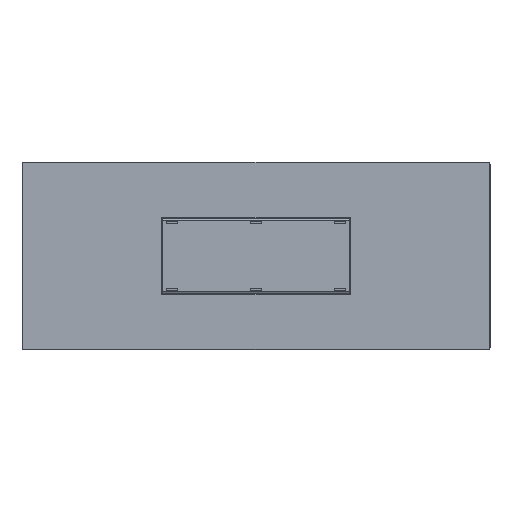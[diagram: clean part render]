
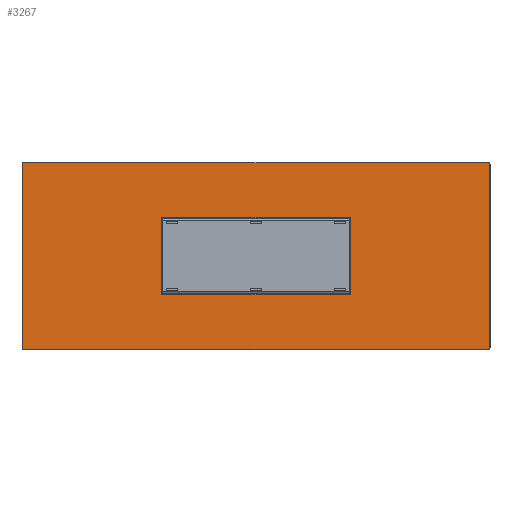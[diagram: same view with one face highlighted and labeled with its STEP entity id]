
A CAD part, front view. The second image highlights one B-rep face of the part: STEP entity #3267.
In plain terms, the highlighted planar face has unit normal (0, -1, 0).
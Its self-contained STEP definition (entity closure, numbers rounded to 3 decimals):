
#2862=CARTESIAN_POINT('',(-1249.0,723.,690.));
#2863=VERTEX_POINT('',#2862);
#2880=CARTESIAN_POINT('',(-1249.,723.,-290.));
#2881=VERTEX_POINT('',#2880);
#2888=CARTESIAN_POINT('',(-1249.0,723.,-290.));
#2889=DIRECTION('',(0.0,0.0,1.0));
#2890=VECTOR('',#2889,980.);
#2891=LINE('',#2888,#2890);
#2892=EDGE_CURVE('',#2881,#2863,#2891,.T.);
#2904=CARTESIAN_POINT('',(-1240.0,723.,-299.));
#2905=VERTEX_POINT('',#2904);
#2912=CARTESIAN_POINT('',(-1240.0,723.,-290.));
#2913=DIRECTION('',(0.,1.,0.));
#2914=DIRECTION('',(-0.707,0.,-0.707));
#2915=AXIS2_PLACEMENT_3D('',#2912,#2913,#2914);
#2916=CIRCLE('',#2915,9.);
#2917=EDGE_CURVE('',#2905,#2881,#2916,.T.);
#2937=CARTESIAN_POINT('',(1240.0,723.,-299.0));
#2938=VERTEX_POINT('',#2937);
#2945=CARTESIAN_POINT('',(1240.0,723.,-299.));
#2946=DIRECTION('',(-1.0,0.0,0.0));
#2947=VECTOR('',#2946,2480.0);
#2948=LINE('',#2945,#2947);
#2949=EDGE_CURVE('',#2938,#2905,#2948,.T.);
#2968=CARTESIAN_POINT('',(1249.0,723.,-290.0));
#2969=VERTEX_POINT('',#2968);
#2976=CARTESIAN_POINT('',(1240.0,723.,-290.0));
#2977=DIRECTION('',(0.,1.,0.));
#2978=DIRECTION('',(0.707,0.,-0.707));
#2979=AXIS2_PLACEMENT_3D('',#2976,#2977,#2978);
#2980=CIRCLE('',#2979,9.);
#2981=EDGE_CURVE('',#2969,#2938,#2980,.T.);
#3001=CARTESIAN_POINT('',(1249.0,723.,690.0));
#3002=VERTEX_POINT('',#3001);
#3009=CARTESIAN_POINT('',(1249.0,723.,690.));
#3010=DIRECTION('',(0.0,0.0,-1.0));
#3011=VECTOR('',#3010,980.);
#3012=LINE('',#3009,#3011);
#3013=EDGE_CURVE('',#3002,#2969,#3012,.T.);
#3032=CARTESIAN_POINT('',(1240.0,723.,699.));
#3033=VERTEX_POINT('',#3032);
#3040=CARTESIAN_POINT('',(1240.0,723.,690.0));
#3041=DIRECTION('',(0.,1.,0.));
#3042=DIRECTION('',(0.707,0.,0.707));
#3043=AXIS2_PLACEMENT_3D('',#3040,#3041,#3042);
#3044=CIRCLE('',#3043,9.);
#3045=EDGE_CURVE('',#3033,#3002,#3044,.T.);
#3065=CARTESIAN_POINT('',(-1240.0,723.,699.0));
#3066=VERTEX_POINT('',#3065);
#3073=CARTESIAN_POINT('',(-1240.0,723.,699.));
#3074=DIRECTION('',(1.0,0.0,0.0));
#3075=VECTOR('',#3074,2480.0);
#3076=LINE('',#3073,#3075);
#3077=EDGE_CURVE('',#3066,#3033,#3076,.T.);
#3103=CARTESIAN_POINT('',(-1240.0,723.,690.));
#3104=DIRECTION('',(0.,1.,0.));
#3105=DIRECTION('',(-0.707,0.,0.707));
#3106=AXIS2_PLACEMENT_3D('',#3103,#3104,#3105);
#3107=CIRCLE('',#3106,9.);
#3108=EDGE_CURVE('',#2863,#3066,#3107,.T.);
#3218=CARTESIAN_POINT('',(0.,723.,200.));
#3219=DIRECTION('',(0.0,1.0,0.0));
#3220=DIRECTION('',(0.0,0.0,1.0));
#3221=AXIS2_PLACEMENT_3D('',#3218,#3219,#3220);
#3222=PLANE('',#3221);
#3223=ORIENTED_EDGE('',*,*,#2892,.F.);
#3224=ORIENTED_EDGE('',*,*,#2917,.F.);
#3225=ORIENTED_EDGE('',*,*,#2949,.F.);
#3226=ORIENTED_EDGE('',*,*,#2981,.F.);
#3227=ORIENTED_EDGE('',*,*,#3013,.F.);
#3228=ORIENTED_EDGE('',*,*,#3045,.F.);
#3229=ORIENTED_EDGE('',*,*,#3077,.F.);
#3230=ORIENTED_EDGE('',*,*,#3108,.F.);
#3231=EDGE_LOOP('',(#3223,#3224,#3225,#3226,#3227,#3228,#3229,#3230));
#3232=FACE_OUTER_BOUND('',#3231,.T.);
#3233=CARTESIAN_POINT('',(-499.,723.,1.));
#3234=VERTEX_POINT('',#3233);
#3235=CARTESIAN_POINT('',(-499.0,723.,399.0));
#3236=VERTEX_POINT('',#3235);
#3237=CARTESIAN_POINT('',(-499.,723.,1.));
#3238=DIRECTION('',(0.0,0.0,1.0));
#3239=VECTOR('',#3238,398.);
#3240=LINE('',#3237,#3239);
#3241=EDGE_CURVE('',#3234,#3236,#3240,.T.);
#3242=ORIENTED_EDGE('',*,*,#3241,.T.);
#3243=CARTESIAN_POINT('',(499.,723.,399.));
#3244=VERTEX_POINT('',#3243);
#3245=CARTESIAN_POINT('',(-499.0,723.,399.0));
#3246=DIRECTION('',(1.0,0.0,0.0));
#3247=VECTOR('',#3246,998.);
#3248=LINE('',#3245,#3247);
#3249=EDGE_CURVE('',#3236,#3244,#3248,.T.);
#3250=ORIENTED_EDGE('',*,*,#3249,.T.);
#3251=CARTESIAN_POINT('',(499.,723.,1.));
#3252=VERTEX_POINT('',#3251);
#3253=CARTESIAN_POINT('',(499.0,723.,399.));
#3254=DIRECTION('',(0.0,0.0,-1.0));
#3255=VECTOR('',#3254,398.);
#3256=LINE('',#3253,#3255);
#3257=EDGE_CURVE('',#3244,#3252,#3256,.T.);
#3258=ORIENTED_EDGE('',*,*,#3257,.T.);
#3259=CARTESIAN_POINT('',(499.,723.,1.));
#3260=DIRECTION('',(-1.0,0.0,0.0));
#3261=VECTOR('',#3260,998.);
#3262=LINE('',#3259,#3261);
#3263=EDGE_CURVE('',#3252,#3234,#3262,.T.);
#3264=ORIENTED_EDGE('',*,*,#3263,.T.);
#3265=EDGE_LOOP('',(#3242,#3250,#3258,#3264));
#3266=FACE_BOUND('',#3265,.T.);
#3267=ADVANCED_FACE('',(#3232,#3266),#3222,.F.);
